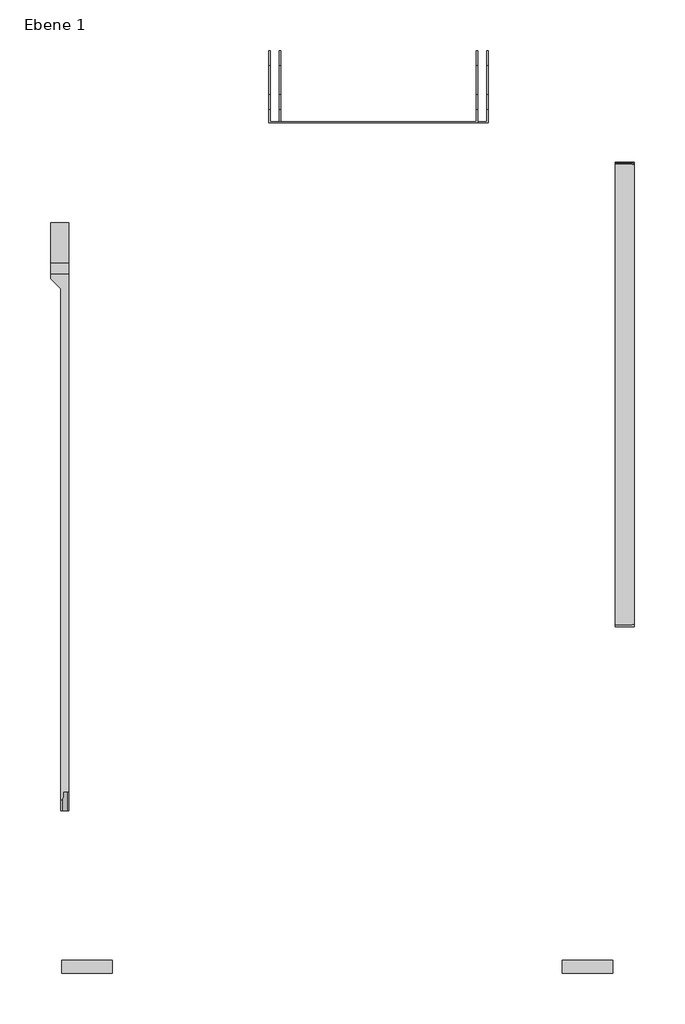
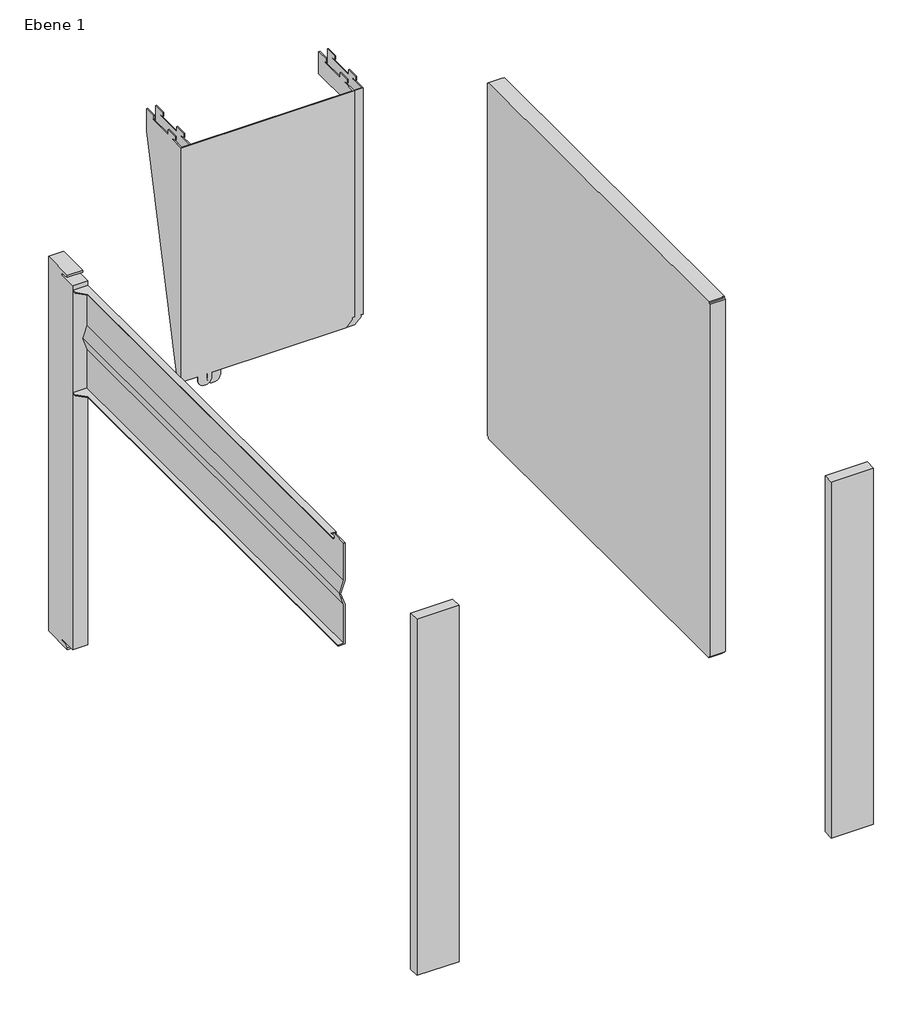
# One storey, incomplete: 5 proxies.
"""IFC4 building model written with IfcOpenShell, lengths in millimetres."""

from ifc_helpers import new_model, si_unit, origin, place, context, project, spatial, transform, mapped, element, save
from components import generic_models_de27f77d, generic_models_fb11fd52, generic_models_8c06a8be, generic_models_ada9aacc

model = new_model("IFC4")

# Units and contexts
model_context = context("Model", 3, world=origin())
ifc_project = project(units=[si_unit("LENGTHUNIT", "METRE", prefix="MILLI")], contexts=[model_context])

# Site, building, storey
site = spatial("IfcSite", under=ifc_project)
building = spatial("IfcBuilding", under=site)
storey = spatial("IfcBuildingStorey", under=building, Name="Ebene 1", Elevation=0.0)

# Proxies
placement = place(None, origin())
generic_models_shape = generic_models_de27f77d(model_context)
element("IfcBuildingElementProxy", 1, Name="046253_Strebe_Boden.02", ObjectType="046253_Strebe_Boden.02", at=placement, inside=storey, context=model_context, shape_type="MappedRepresentation", body=[
    mapped(generic_models_shape, transform((0.0, -0.6, 0.0), x_axis=(1.0, 0.0, 0.0), y_axis=(0.0, 1.0, 0.0), z_axis=(0.0, 0.0, 1.0))),
])
element("IfcBuildingElementProxy", 2, Name="046253_Strebe_Boden.003", ObjectType="046253_Strebe_Boden.003", at=placement, inside=storey, context=model_context, shape_type="MappedRepresentation", body=[
    mapped(generic_models_shape, transform((493.69, -0.6, 0.0), x_axis=(1.0, 0.0, 0.0), y_axis=(0.0, 1.0, 0.0), z_axis=(0.0, 0.0, 1.0))),
])
generic_models_2_shape = generic_models_fb11fd52(model_context)
element("IfcBuildingElementProxy", 3, Name="Platzhalter_Spuelkammer_Tuer_15.07.25", ObjectType="Platzhalter_Spuelkammer_Tuer_15.07.25", at=placement, inside=storey, context=model_context, shape_type="MappedRepresentation", body=[
    mapped(generic_models_2_shape, transform((580.0, 756.25, -250.0), x_axis=(0.0, 1.0, 0.0), y_axis=(-1.0, 0.0, 0.0), z_axis=(0.0, 0.0, 1.0))),
])
generic_models_3_shape = generic_models_8c06a8be(model_context)
element("IfcBuildingElementProxy", 4, Name="046289_Konsole_fuer_Powerteil", ObjectType="046289_Konsole_fuer_Powerteil", at=placement, inside=storey, context=model_context, shape_type="MappedRepresentation", body=[
    mapped(generic_models_3_shape, transform((-1.375, 0.0, 0.0), x_axis=(1.0, 0.0, 0.0), y_axis=(0.0, 1.0, 0.0), z_axis=(0.0, 0.0, 1.0))),
])
generic_models_4_shape = generic_models_ada9aacc(model_context)
element("IfcBuildingElementProxy", 5, Name="046542_Motorhalterung", ObjectType="046542_Motorhalterung", at=placement, inside=storey, context=model_context, shape_type="MappedRepresentation", body=[
    mapped(generic_models_4_shape, transform((0.0, 0.0, 0.0), x_axis=(1.0, 0.0, 0.0), y_axis=(0.0, 1.0, 0.0), z_axis=(0.0, 0.0, 1.0))),
])

save(model, "model.ifc")
